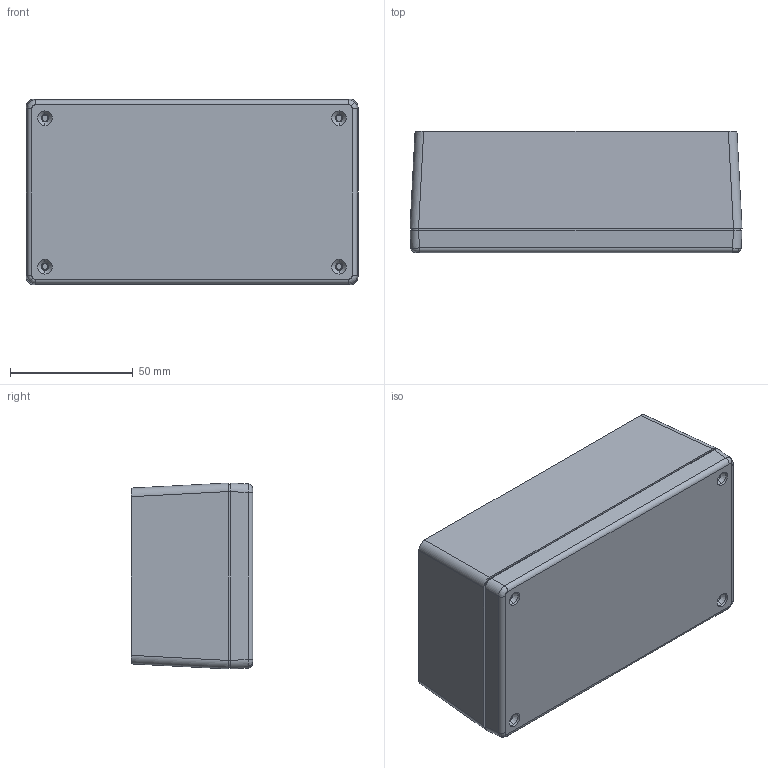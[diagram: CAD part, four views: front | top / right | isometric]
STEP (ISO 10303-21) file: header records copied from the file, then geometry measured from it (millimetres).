
FILE_DESCRIPTION (( 'STEP AP203' ), '1' );
FILE_NAME ('HH-070.STEP', '2016-10-06T13:15:50', ( '' ), ( '' ), 'SwSTEP 2.0', 'SolidWorks 2015', '' );
FILE_SCHEMA (( 'CONFIG_CONTROL_DESIGN' ));
Length unit declared in the file: millimetre
Products named in the file (3): HH-070-P-2; HH-070-P-1; HH-070
Assembly tree (2 placements, depth 2):
  HH-070
    HH-070-P-2
    HH-070-P-1
Bounding box: 135.5 x 49.6 x 75.9 mm (x, y, z)
Volume: 97768.8 mm3; surface area: 82527.9 mm2
Topology: 2 solids, 2 shells, 226 faces, 510 edges, 314 vertices
Faces by surface type: cone 64, cylinder 64, plane 64, torus 20, bspline 14
Entity records: 7043 total; most frequent: CARTESIAN_POINT 1691, DIRECTION 1104, ORIENTED_EDGE 1020, EDGE_CURVE 510, AXIS2_PLACEMENT_3D 443, VERTEX_POINT 314, EDGE_LOOP 260, CIRCLE 226
